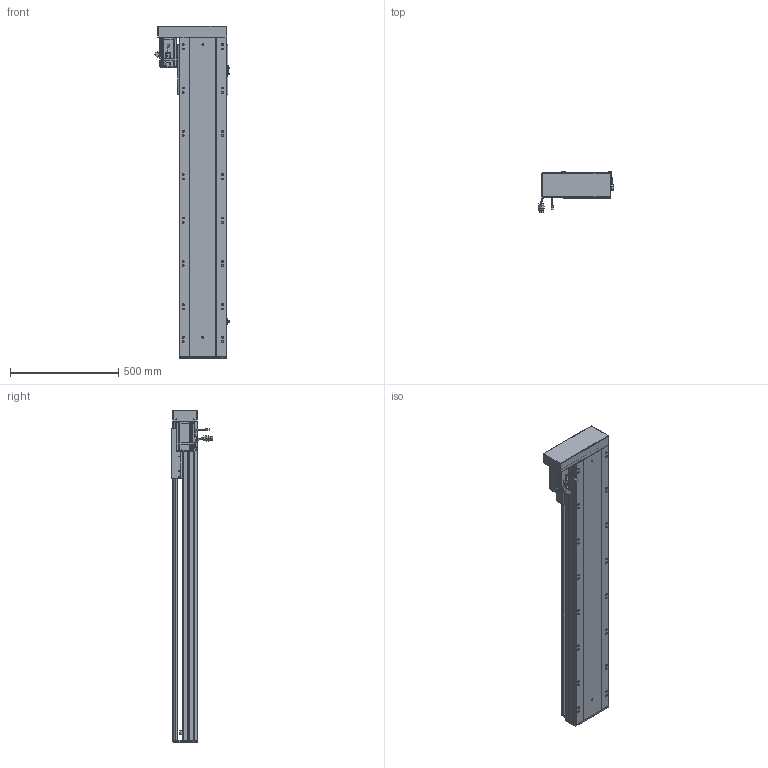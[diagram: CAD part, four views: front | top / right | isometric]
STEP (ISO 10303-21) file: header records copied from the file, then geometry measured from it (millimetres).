
FILE_DESCRIPTION (( 'STEP AP203' ), '1' );
FILE_NAME ('RY220-L2525-300-LK.SLDASM_1150.step', '2022-07-04T01:47:07', ( '' ), ( '' ), 'SwSTEP 2.0', 'SolidWorks 2016', '' );
FILE_SCHEMA (( 'CONFIG_CONTROL_DESIGN' ));
Length unit declared in the file: millimetre
Products named in the file (12): 怢湛750W_ECMA-CX0807ES; 覜茼ん672; RY220-300-蛌殏奻裔啣_1150; 滅袉蝶18-10; RY220-俋离672覜茼んえ; RY220左右折电机安装板; RY220半封闭25-32螺母铝滑块; RY220綴裔啣; 滅袉蝶18-15; RY220酘衵殏萇儂欶; RY220-L2525-300-LK.SLDASM_1150; RY220蛌殏菁釱-300_1150
Assembly tree (15 placements, depth 2):
  RY220-L2525-300-LK.SLDASM_1150
    RY220蛌殏菁釱-300_1150
    RY220-300-蛌殏奻裔啣_1150
    怢湛750W_ECMA-CX0807ES
    滅袉蝶18-10  x2
    RY220-俋离672覜茼んえ
    覜茼ん672  x3
    RY220綴裔啣
    RY220半封闭25-32螺母铝滑块
    滅袉蝶18-15  x2
    RY220左右折电机安装板
    RY220酘衵殏萇儂欶
Bounding box: 347.44 x 189.27 x 1532 mm (x, y, z)
Volume: 12531265 mm3; surface area: 3694099.4 mm2
Topology: 16 solids, 16 shells, 2185 faces, 6028 edges, 3807 vertices
Faces by surface type: cylinder 989, plane 896, cone 230, bspline 44, sphere 16, torus 10
Entity records: 72125 total; most frequent: CARTESIAN_POINT 20919, ORIENTED_EDGE 10624, DIRECTION 10008, EDGE_CURVE 5312, AXIS2_PLACEMENT_3D 3523, VERTEX_POINT 3463, VECTOR 2962, LINE 2962
